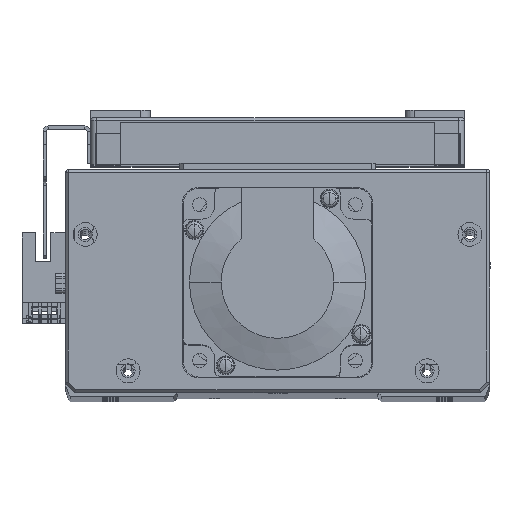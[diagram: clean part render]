
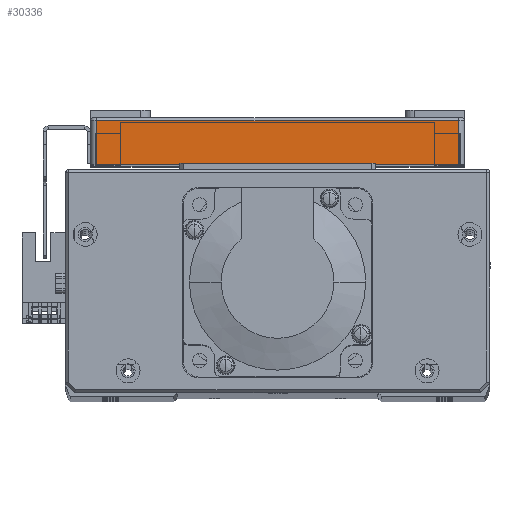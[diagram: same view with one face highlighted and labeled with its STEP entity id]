
A CAD part, top view. The second image highlights one B-rep face of the part: STEP entity #30336.
In plain terms, the highlighted planar face has unit normal (0, 0, 1) as drawn and (-1, 0, 0) by its records, which use the part's own axes.
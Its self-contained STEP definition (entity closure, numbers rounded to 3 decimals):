
#1982 = FACE_OUTER_BOUND ( 'NONE', #27357, .T. ) ;
#8090 = VERTEX_POINT ( 'NONE', #52123 ) ;
#24121 = ORIENTED_EDGE ( 'NONE', *, *, #44324, .T. ) ;
#25274 = CARTESIAN_POINT ( 'NONE',  ( -95., 0., 57.5 ) ) ;
#25655 = CARTESIAN_POINT ( 'NONE',  ( -95., 14., -57.5 ) ) ;
#25681 = CARTESIAN_POINT ( 'NONE',  ( -95., 14., 57.5 ) ) ;
#27357 = EDGE_LOOP ( 'NONE', ( #24121, #45589, #45565, #45584 ) ) ;
#28319 = LINE ( 'NONE', #29656, #28334 ) ;
#28334 = VECTOR ( 'NONE', #29646, 1000. ) ;
#28379 = VECTOR ( 'NONE', #29800, 1000. ) ;
#28402 = LINE ( 'NONE', #29816, #28379 ) ;
#28417 = LINE ( 'NONE', #29821, #28465 ) ;
#28465 = VECTOR ( 'NONE', #29805, 1000. ) ;
#28582 = LINE ( 'NONE', #30001, #28606 ) ;
#28606 = VECTOR ( 'NONE', #30022, 1000. ) ;
#29646 = DIRECTION ( 'NONE',  ( 0., 0., 1. ) ) ;
#29656 = CARTESIAN_POINT ( 'NONE',  ( -95., 0., -59.5 ) ) ;
#29800 = DIRECTION ( 'NONE',  ( 0., -1., 0. ) ) ;
#29805 = DIRECTION ( 'NONE',  ( 0., 0., -1. ) ) ;
#29816 = CARTESIAN_POINT ( 'NONE',  ( -95., 15., -57.5 ) ) ;
#29821 = CARTESIAN_POINT ( 'NONE',  ( -95., 14., -57.5 ) ) ;
#30001 = CARTESIAN_POINT ( 'NONE',  ( -95., 15., 57.5 ) ) ;
#30022 = DIRECTION ( 'NONE',  ( 0., 1., 0. ) ) ;
#30336 = ADVANCED_FACE ( 'NONE', ( #1982 ), #40217, .F. ) ;
#33347 = AXIS2_PLACEMENT_3D ( 'NONE', #40201, #40230, #40202 ) ;
#36493 = VERTEX_POINT ( 'NONE', #25274 ) ;
#40201 = CARTESIAN_POINT ( 'NONE',  ( -95., 15., -59.5 ) ) ;
#40202 = DIRECTION ( 'NONE',  ( 0., 0., -1. ) ) ;
#40217 = PLANE ( 'NONE',  #33347 ) ;
#40230 = DIRECTION ( 'NONE',  ( 1., 0., 0. ) ) ;
#44168 = EDGE_CURVE ( 'NONE', #8090, #36493, #28319, .T. ) ;
#44231 = EDGE_CURVE ( 'NONE', #45518, #8090, #28402, .T. ) ;
#44246 = EDGE_CURVE ( 'NONE', #45508, #45518, #28417, .T. ) ;
#44324 = EDGE_CURVE ( 'NONE', #36493, #45508, #28582, .T. ) ;
#45508 = VERTEX_POINT ( 'NONE', #25681 ) ;
#45518 = VERTEX_POINT ( 'NONE', #25655 ) ;
#45565 = ORIENTED_EDGE ( 'NONE', *, *, #44231, .T. ) ;
#45584 = ORIENTED_EDGE ( 'NONE', *, *, #44168, .T. ) ;
#45589 = ORIENTED_EDGE ( 'NONE', *, *, #44246, .T. ) ;
#52123 = CARTESIAN_POINT ( 'NONE',  ( -95., 0., -57.5 ) ) ;
